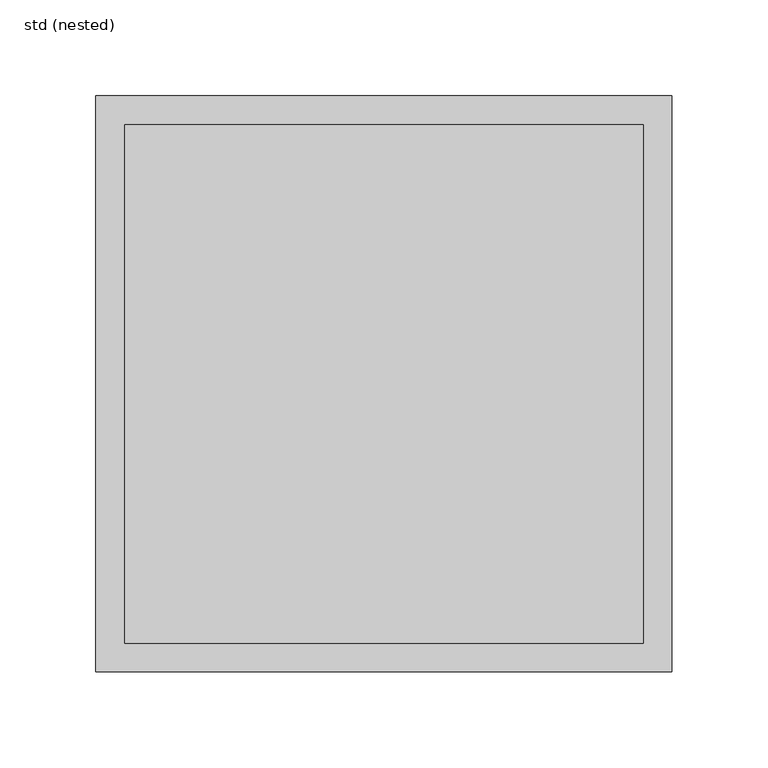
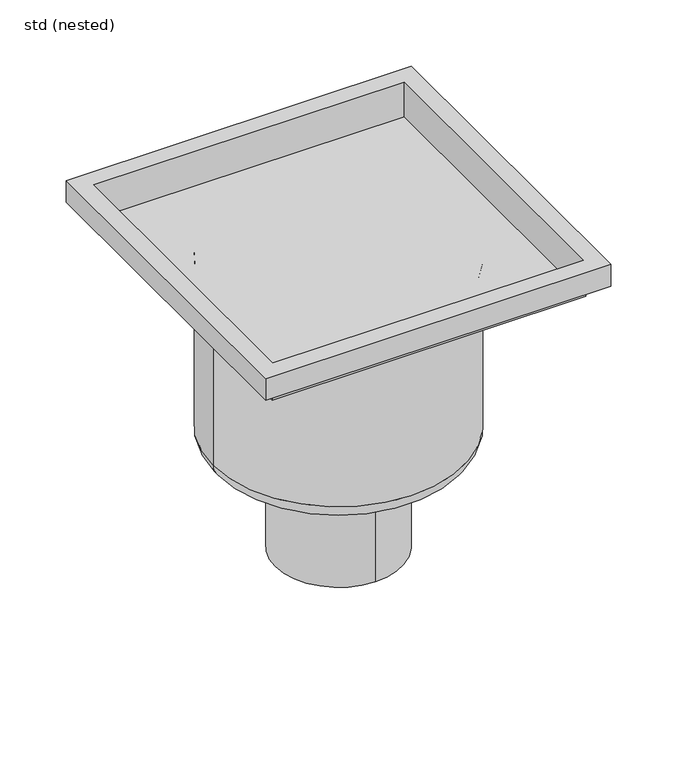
"""IFC4 building model written with IfcOpenShell, lengths in millimetres: sanitary terminal geometry, ZZZ_do not use_PF_ST_UN_fixed height hygienic gully_ACO : std (nested)."""

from ifc_helpers import new_model, si_unit, point, frame, origin, place, context, project, spatial, circle_curve, ellipse_curve, trimmed, source, transform, mapped, element, save
from ifc_brep_helpers import plane_surface, cylinder_surface, revolved_surface, advanced_brep


def std_nested_1c124e65(model_context):
    return source(origin(), model_context, "Body", "AdvancedBrep", [
        advanced_brep(
        [(109.0, 0.0, -185.0), (-109.0, 0.0, -185.0), (-109.0, 0.0, -33.0), (109.0, 0.0, -33.0), (94.0, 0.0, -200.0), (-94.0, 0.0, -200.0), (55.0, 0.0, -200.0), (0.0, 55.0, -200.0), (-55.0, 0.0, -200.0), (0.0, -55.0, -200.0), (0.0, -55.0, -297.0), (0.0, 55.0, -297.0), (150.0, 150.0, -20.0), (150.0, -150.0, -20.0), (-150.0, -150.0, -20.0), (-150.0, 150.0, -20.0), (136.25, 136.25, -20.0), (-136.25, 136.25, -20.0), (-136.25, -136.25, -20.0), (136.25, -136.25, -20.0), (150.0, 150.0, 0.0), (-150.0, 150.0, 0.0), (-150.0, -150.0, 0.0), (150.0, -150.0, 0.0), (135.0, 135.0, 0.0), (135.0, -135.0, 0.0), (-135.0, -135.0, 0.0), (-135.0, 135.0, 0.0), (135.0, 135.0, -31.75), (135.0, -135.0, -31.75), (-135.0, -135.0, -31.75), (-135.0, 135.0, -31.75), (136.25, 136.25, -33.0), (136.25, -136.25, -33.0), (-136.25, -136.25, -33.0), (-136.25, 136.25, -33.0), (-136.25, 136.25, -31.75), (136.25, 136.25, -31.75), (-136.25, -136.25, -31.75), (136.25, -136.25, -31.75)],
        [
            (0, 1, circle_curve(frame((0.0, 0.0, -185.0), z_axis=(0.0, 0.0, 1.0), x_axis=(-1.0, 0.0, 0.0)), 109.0)),
            (1, 2),
            (2, 3, circle_curve(frame((0.0, 0.0, -33.0), z_axis=(0.0, 0.0, -1.0), x_axis=(-1.0, 0.0, 0.0)), 109.0)),
            (3, 0),
            (1, 0, circle_curve(frame((0.0, 0.0, -185.0), z_axis=(0.0, 0.0, 1.0), x_axis=(-1.0, 0.0, 0.0)), 109.0)),
            (3, 2, circle_curve(frame((0.0, 0.0, -33.0), z_axis=(0.0, 0.0, -1.0), x_axis=(-1.0, 0.0, 0.0)), 109.0)),
            (0, 4, circle_curve(frame((94.0, 0.0, -185.0), z_axis=(0.0, 1.0, 0.0), x_axis=(-1.0, 0.0, 0.0)), 15.0)),
            (4, 5, circle_curve(frame((0.0, 0.0, -200.0), z_axis=(0.0, 0.0, 1.0), x_axis=(-1.0, 0.0, 0.0)), 94.0)),
            (5, 1, circle_curve(frame((-94.0, 0.0, -185.0), z_axis=(0.0, 1.0, 0.0), x_axis=(1.0, 0.0, 0.0)), 15.0)),
            (5, 4, circle_curve(frame((0.0, 0.0, -200.0), z_axis=(0.0, 0.0, 1.0), x_axis=(-1.0, 0.0, 0.0)), 94.0)),
            (4, 6),
            (6, 7, circle_curve(frame((0.0, 0.0, -200.0), z_axis=(0.0, 0.0, 1.0), x_axis=(0.0, 1.0, 0.0)), 55.0)),
            (7, 8, circle_curve(frame((0.0, 0.0, -200.0), z_axis=(0.0, 0.0, 1.0), x_axis=(0.0, 1.0, 0.0)), 55.0)),
            (8, 5),
            (8, 9, circle_curve(frame((0.0, 0.0, -200.0), z_axis=(0.0, 0.0, 1.0), x_axis=(0.0, 1.0, 0.0)), 55.0)),
            (9, 6, circle_curve(frame((0.0, 0.0, -200.0), z_axis=(0.0, 0.0, 1.0), x_axis=(0.0, 1.0, 0.0)), 55.0)),
            (10, 11, circle_curve(frame((0.0, 0.0, -297.0), z_axis=(0.0, 0.0, -1.0), x_axis=(0.0, 1.0, 0.0)), 55.0)),
            (11, 10, circle_curve(frame((0.0, 0.0, -297.0), z_axis=(0.0, 0.0, -1.0), x_axis=(0.0, 1.0, 0.0)), 55.0)),
            (10, 9),
            (7, 11),
            (12, 13),
            (13, 14),
            (14, 15),
            (15, 12),
            (16, 17),
            (17, 18),
            (18, 19),
            (19, 16),
            (20, 21),
            (21, 22),
            (22, 23),
            (23, 20),
            (24, 25),
            (25, 26),
            (26, 27),
            (27, 24),
            (15, 21),
            (20, 12),
            (14, 22),
            (13, 23),
            (24, 28),
            (28, 29),
            (29, 25),
            (29, 30),
            (30, 26),
            (30, 31),
            (31, 27),
            (31, 28),
            (32, 33),
            (33, 34),
            (34, 35),
            (35, 32),
            (35, 36),
            (36, 17),
            (16, 37),
            (37, 32),
            (34, 38),
            (38, 18),
            (33, 39),
            (39, 19),
        ],
        [
            cylinder_surface(frame((0.0, 0.0, 60.0), z_axis=(0.0, 0.0, -1.0), x_axis=(-1.0, 0.0, 0.0)), 109.0),
            revolved_surface(trimmed(ellipse_curve(frame((-94.0, 0.0, -185.0), z_axis=(0.0, -1.0, 0.0), x_axis=(1.0, 0.0, 0.0)), 15.0, 15.0), [point((-109.0, 0.0, -185.0))], [point((-94.0, 0.0, -200.0))], True, "CARTESIAN"), (0.0, 0.0, 60.0), (0.0, 0.0, -1.0)),
            plane_surface(frame((0.0, 0.0, -200.0), z_axis=(0.0, 0.0, -1.0), x_axis=(-1.0, 0.0, 0.0))),
            plane_surface(frame((0.0, 55.0, -297.0), z_axis=(0.0, 0.0, -1.0), x_axis=(1.0, 0.0, 0.0))),
            cylinder_surface(frame((0.0, 0.0, -200.0), z_axis=(0.0, 0.0, -1.0), x_axis=(0.0, 1.0, 0.0)), 55.0),
            plane_surface(frame((-150.0, 150.0, -20.0), z_axis=(0.0, 0.0, -1.0), x_axis=(1.0, 0.0, 0.0))),
            plane_surface(frame((-150.0, 150.0, 0.0), z_axis=(0.0, 0.0, 1.0), x_axis=(-1.0, 0.0, 0.0))),
            plane_surface(frame((150.0, 150.0, 0.0), z_axis=(0.0, 1.0, 0.0), x_axis=(0.0, 0.0, -1.0))),
            plane_surface(frame((-150.0, 150.0, 0.0), z_axis=(-1.0, 0.0, 0.0), x_axis=(0.0, 0.0, -1.0))),
            plane_surface(frame((-150.0, -150.0, 0.0), z_axis=(0.0, -1.0, 0.0), x_axis=(0.0, 0.0, -1.0))),
            plane_surface(frame((150.0, -150.0, 0.0), z_axis=(1.0, 0.0, 0.0), x_axis=(0.0, 0.0, -1.0))),
            plane_surface(frame((135.0, 135.0, 0.0), z_axis=(-1.0, 0.0, 0.0), x_axis=(0.0, 0.0, -1.0))),
            plane_surface(frame((135.0, -135.0, 0.0), z_axis=(0.0, 1.0, 0.0), x_axis=(0.0, 0.0, -1.0))),
            plane_surface(frame((-135.0, -135.0, 0.0), z_axis=(1.0, 0.0, 0.0), x_axis=(0.0, 0.0, -1.0))),
            plane_surface(frame((-135.0, 135.0, 0.0), z_axis=(0.0, -1.0, 0.0), x_axis=(0.0, 0.0, -1.0))),
            plane_surface(frame((-136.25, 136.25, -33.0), z_axis=(0.0, 0.0, -1.0), x_axis=(1.0, 0.0, 0.0))),
            plane_surface(frame((136.25, 136.25, -20.0), z_axis=(0.0, 1.0, 0.0), x_axis=(0.0, 0.0, -1.0))),
            plane_surface(frame((-136.25, 136.25, -20.0), z_axis=(-1.0, 0.0, 0.0), x_axis=(0.0, 0.0, -1.0))),
            plane_surface(frame((-136.25, -136.25, -20.0), z_axis=(0.0, -1.0, 0.0), x_axis=(0.0, 0.0, -1.0))),
            plane_surface(frame((136.25, -136.25, -20.0), z_axis=(1.0, 0.0, 0.0), x_axis=(0.0, 0.0, -1.0))),
            plane_surface(frame((-136.25, 136.25, -31.75), z_axis=(0.0, 0.0, 1.0), x_axis=(-1.0, 0.0, 0.0))),
        ],
        [
            (0, [[1, 2, 3, 4]]),
            (0, [[-2, 5, -4, 6]]),
            (1, [[-1, 7, 8, 9]]),
            (1, [[-5, -9, 10, -7]]),
            (2, [[-8, 11, 12, 13, 14]]),
            (2, [[-10, -14, 15, 16, -11]]),
            (3, [[17, 18]]),
            (4, [[-17, 19, -15, -13, 20]]),
            (4, [[-18, -20, -12, -16, -19]]),
            (5, [[21, 22, 23, 24], [25, 26, 27, 28]]),
            (6, [[29, 30, 31, 32], [33, 34, 35, 36]]),
            (7, [[-24, 37, -29, 38]]),
            (8, [[-23, 39, -30, -37]]),
            (9, [[-22, 40, -31, -39]]),
            (10, [[-21, -38, -32, -40]]),
            (11, [[-33, 41, 42, 43]]),
            (12, [[-34, -43, 44, 45]]),
            (13, [[-35, -45, 46, 47]]),
            (14, [[-36, -47, 48, -41]]),
            (15, [[49, 50, 51, 52], [-3, -6]]),
            (16, [[-52, 53, 54, -25, 55, 56]]),
            (17, [[-51, 57, 58, -26, -54, -53]]),
            (18, [[-50, 59, 60, -27, -58, -57]]),
            (19, [[-49, -56, -55, -28, -60, -59]]),
            (20, [[-42, -48, -46, -44]]),
        ],
    ),
    ])


if __name__ == "__main__":
    model = new_model("IFC4")
    model_context = context("Model", 3, world=origin())
    ifc_project = project(units=[si_unit("LENGTHUNIT", "METRE", prefix="MILLI")], contexts=[model_context])
    site = spatial("IfcSite", under=ifc_project)
    building = spatial("IfcBuilding", under=site)
    placement = place(None, origin())
    std_nested_shape = std_nested_1c124e65(model_context)
    element("IfcSanitaryTerminal", 1, ObjectType="ZZZ_do not use_PF_ST_UN_fixed height hygienic gully_ACO : std (nested)", at=placement, inside=building, context=model_context, shape_type="MappedRepresentation", body=[
        mapped(std_nested_shape, transform((0.0, 0.0, 0.0), x_axis=(1.0, 0.0, 0.0), y_axis=(0.0, 1.0, 0.0), z_axis=(0.0, 0.0, 1.0))),
    ])
    save(model, "model.ifc")
